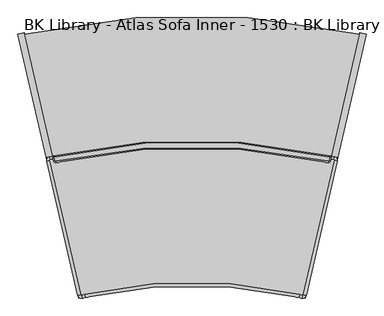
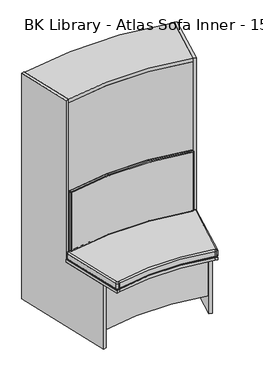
"""IFC4 building model written with IfcOpenShell, lengths in millimetres: furniture geometry, BK Library - Atlas Sofa Inner - 1530 : BK Library - Atlas Sofa Inner - 1530."""

from ifc_helpers import new_model, si_unit, point, frame, frame_2d, origin, place, context, project, spatial, polyline, circle_curve, ellipse_curve, trimmed, segment, composite_curve, outline, extrude, source, transform, mapped, element, save
from ifc_brep_helpers import plane_surface, cylinder_surface, revolved_surface, advanced_brep


def bk_library_atlas_sofa_inner_1530_bk_library_atlas_sofa_inner_c74d5a1d(model_context):
    return source(origin(), model_context, "Body", "SolidModel", [
        extrude(outline(composite_curve([segment(trimmed(circle_curve(frame_2d((0.0, -1777.8812307)), 2148.52767), [point((-474.1962162, 317.663829))], [point((474.1962162, 317.663829))], False, "CARTESIAN"), True, "CONTINUOUS"), segment(polyline([(474.1962162, 317.663829), (407.6853202, 29.2289965)]), True, "CONTINUOUS"), segment(trimmed(circle_curve(frame_2d((0.0, -1798.2835703)), 1872.4341116), [point((407.6853202, 29.2289965))], [point((-407.6853202, 29.2289965))], True, "CARTESIAN"), True, "CONTINUOUS"), segment(polyline([(-407.6853202, 29.2289965), (-474.1962162, 317.663829)]), True, "CONTINUOUS")], self_intersect=False)), frame((0.0, 0.0, 1131.7), z_axis=(0.0, 0.0, 1.0), x_axis=(1.0, 0.0, 0.0)), (0.0, 0.0, 1.0), 22.0),
        extrude(outline(composite_curve([segment(trimmed(circle_curve(frame_2d((0.0, -1776.6858327)), 1864.3585062), [point((-410.605951, 41.8947656))], [point((410.605951, 41.8947656))], False, "CARTESIAN"), True, "CONTINUOUS"), segment(polyline([(410.605951, 41.8947656), (407.6853202, 29.2289965)]), True, "CONTINUOUS"), segment(trimmed(circle_curve(frame_2d((0.0, -1798.2835703)), 1872.4341116), [point((407.6853202, 29.2289965))], [point((-407.6853202, 29.2289965))], True, "CARTESIAN"), True, "CONTINUOUS"), segment(polyline([(-407.6853202, 29.2289965), (-410.605951, 41.8947656)]), True, "CONTINUOUS")], self_intersect=False)), frame((0.0, 0.0, 1153.7), z_axis=(0.0, 0.0, 1.0), x_axis=(1.0, 0.0, 0.0)), (0.0, 0.0, 1.0), 20.0),
        extrude(outline(composite_curve([segment(trimmed(circle_curve(frame_2d((0.0, -1777.8812307)), 2148.52767), [point((-474.1962162, 317.663829))], [point((474.1962162, 317.663829))], False, "CARTESIAN"), True, "CONTINUOUS"), segment(polyline([(474.1962162, 317.663829), (394.6538473, -27.2840099)]), True, "CONTINUOUS"), segment(trimmed(circle_curve(frame_2d((0.0, -1738.7617261)), 1756.3905125), [point((394.6538473, -27.2840099))], [point((-394.6538473, -27.2840099))], True, "CARTESIAN"), True, "CONTINUOUS"), segment(polyline([(-394.6538473, -27.2840099), (-474.1962162, 317.663829)]), True, "CONTINUOUS")], self_intersect=False)), frame((0.0, 0.0, 1501.7), z_axis=(0.0, 0.0, 1.0), x_axis=(1.0, 0.0, 0.0)), (0.0, 0.0, 1.0), 24.0),
        advanced_brep(
        [(-387.5289282, -41.0616278, 912.6999998), (-386.337373, -41.8193482, 912.6999998), (386.322412, -41.8102681, 912.6999998), (387.5138106, -41.053138, 912.6999998), (389.7114211, -31.2769641, 912.6999998), (388.9577264, -30.0825885, 912.6999998), (-388.967965, -30.0849192, 912.6999998), (-389.7217875, -31.2786982, 912.6999998), (-386.337373, -41.8193482, 512.6999998), (-387.5289282, -41.0616278, 512.6999998), (-389.7217875, -31.2786982, 512.6999998), (-388.967965, -30.0849192, 512.6999998), (388.9577264, -30.0825885, 512.6999998), (389.7114211, -31.2769641, 512.6999998), (387.5138106, -41.053138, 512.6999998), (386.322412, -41.8102681, 512.6999998), (-391.4320751, -41.9365244, 908.6999998), (-393.6249345, -32.1535948, 908.6999998), (-393.6249345, -32.1535948, 516.6999998), (-391.4320751, -41.9365244, 516.6999998), (-385.4742994, -45.7251264, 908.6999998), (-385.4742994, -45.7251264, 516.6999998), (385.4594302, -45.7160667, 908.6999998), (385.4594302, -45.7160667, 516.6999998), (391.416423, -41.9304159, 908.6999998), (391.416423, -41.9304159, 516.6999998), (393.6140335, -32.1542421, 908.6999998), (393.6140335, -32.1542421, 516.6999998), (-389.8558218, -26.1846999, 908.6999998), (389.8455598, -26.1823639, 908.6999998), (389.8455598, -26.1823639, 516.6999998), (-389.8558218, -26.1846999, 516.6999998)],
        [
            (0, 1, circle_curve(frame((-386.5531414, -40.8429036, 912.6999998), z_axis=(0.0, 0.0, 1.0), x_axis=(-0.9757867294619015, -0.21872416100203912, 0.0)), 1.0)),
            (1, 2, circle_curve(frame((0.0130662, -1790.2207372, 912.6999998), z_axis=(0.0, 0.0, -1.0), x_axis=(-0.21576840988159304, 0.9764445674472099, 0.0)), 1790.579258)),
            (2, 3, circle_curve(frame((386.5381575, -40.8338185, 912.6999998), z_axis=(0.0, 0.0, 1.0), x_axis=(-0.21574546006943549, -0.9764496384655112, 0.0)), 1.0)),
            (3, 4),
            (4, 5, circle_curve(frame((388.735768, -31.0576446, 912.6999998), z_axis=(0.0, 0.0, 1.0), x_axis=(0.9756530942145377, -0.21931949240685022, 0.0)), 1.0)),
            (5, 6, circle_curve(frame((0.0, -1738.7617261, 912.6999998), z_axis=(0.0, 0.0, 1.0), x_axis=(0.2219583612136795, 0.9750561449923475, 0.0)), 1752.3905125)),
            (6, 7, circle_curve(frame((-388.7460008, -31.059974, 912.6999998), z_axis=(0.0, 0.0, 1.0), x_axis=(-0.22196420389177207, 0.9750548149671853, 0.0)), 1.0)),
            (7, 0),
            (8, 9, circle_curve(frame((-386.5531414, -40.8429036, 512.6999998), z_axis=(0.0, 0.0, -1.0), x_axis=(-0.9757867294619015, -0.21872416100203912, 0.0)), 1.0)),
            (9, 10),
            (10, 11, circle_curve(frame((-388.7460008, -31.059974, 512.6999998), z_axis=(0.0, 0.0, -1.0), x_axis=(-0.22196420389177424, 0.9750548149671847, 0.0)), 1.0)),
            (11, 12, circle_curve(frame((0.0, -1738.7617261, 512.6999998), z_axis=(0.0, 0.0, -1.0), x_axis=(0.2219583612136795, 0.9750561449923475, 0.0)), 1752.3905125)),
            (12, 13, circle_curve(frame((388.735768, -31.0576446, 512.6999998), z_axis=(0.0, 0.0, -1.0), x_axis=(0.9756530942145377, -0.21931949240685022, 0.0)), 1.0)),
            (13, 14),
            (14, 15, circle_curve(frame((386.5381575, -40.8338185, 512.6999998), z_axis=(0.0, 0.0, -1.0), x_axis=(-0.21574546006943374, -0.9764496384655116, 0.0)), 1.0)),
            (15, 8, circle_curve(frame((0.0130662, -1790.2207372, 512.6999998), z_axis=(0.0, 0.0, 1.0), x_axis=(-0.21576840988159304, 0.9764445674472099, 0.0)), 1790.579258)),
            (16, 17),
            (17, 18),
            (18, 19),
            (19, 16),
            (20, 16, circle_curve(frame((-386.5531414, -40.8429036, 908.6999998), z_axis=(0.0, 0.0, -1.0), x_axis=(1.0, 0.0, 0.0)), 5.0)),
            (19, 21, circle_curve(frame((-386.5531414, -40.8429036, 516.6999998), z_axis=(0.0, 0.0, 1.0), x_axis=(1.0, 0.0, 0.0)), 5.0)),
            (21, 20),
            (22, 20, circle_curve(frame((0.0130662, -1790.2207372, 908.6999998), z_axis=(0.0, 0.0, 1.0), x_axis=(1.0, 0.0, 0.0)), 1786.579258)),
            (21, 23, circle_curve(frame((0.0130662, -1790.2207372, 516.6999998), z_axis=(0.0, 0.0, -1.0), x_axis=(1.0, 0.0, 0.0)), 1786.579258)),
            (23, 22),
            (24, 22, circle_curve(frame((386.5381575, -40.8338185, 908.6999998), z_axis=(0.0, 0.0, -1.0), x_axis=(1.0, 0.0, 0.0)), 5.0)),
            (23, 25, circle_curve(frame((386.5381575, -40.8338185, 516.6999998), z_axis=(0.0, 0.0, 1.0), x_axis=(1.0, 0.0, 0.0)), 5.0)),
            (25, 24),
            (26, 24),
            (25, 27),
            (27, 26),
            (28, 29, circle_curve(frame((0.0, -1738.7617261, 908.6999998), z_axis=(0.0, 0.0, -1.0), x_axis=(1.0, 0.0, 0.0)), 1756.3905125)),
            (29, 30),
            (30, 31, circle_curve(frame((0.0, -1738.7617261, 516.6999998), z_axis=(0.0, 0.0, 1.0), x_axis=(1.0, 0.0, 0.0)), 1756.3905125)),
            (31, 28),
            (17, 28, circle_curve(frame((-388.7460008, -31.059974, 908.6999998), z_axis=(0.0, 0.0, -1.0), x_axis=(1.0, 0.0, 0.0)), 5.0)),
            (31, 18, circle_curve(frame((-388.7460008, -31.059974, 516.6999998), z_axis=(0.0, 0.0, 1.0), x_axis=(1.0, 0.0, 0.0)), 5.0)),
            (29, 26, circle_curve(frame((388.735768, -31.0576446, 908.6999998), z_axis=(0.0, 0.0, -1.0), x_axis=(1.0, 0.0, 0.0)), 5.0)),
            (27, 30, circle_curve(frame((388.735768, -31.0576446, 516.6999998), z_axis=(0.0, 0.0, 1.0), x_axis=(1.0, 0.0, 0.0)), 5.0)),
            (20, 1, circle_curve(frame((-386.337373, -41.8193482, 908.6999998), z_axis=(-0.9764445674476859, -0.21576840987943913, 0.0), x_axis=(-0.21576840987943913, 0.9764445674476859, 0.0)), 4.0)),
            (0, 16, circle_curve(frame((-387.5289282, -41.0616278, 908.6999998), z_axis=(0.21872416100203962, -0.9757867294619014, 0.0), x_axis=(0.9757867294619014, 0.21872416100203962, 0.0)), 4.0)),
            (22, 2, circle_curve(frame((386.322412, -41.8102681, 908.6999998), z_axis=(-0.9764496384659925, 0.21574546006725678, 0.0), x_axis=(0.21574546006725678, 0.9764496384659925, 0.0)), 4.0)),
            (24, 3, circle_curve(frame((387.5138106, -41.053138, 908.6999998), z_axis=(-0.21931949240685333, -0.975653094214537, 0.0), x_axis=(-0.975653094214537, 0.21931949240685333, 0.0)), 4.0)),
            (26, 4, circle_curve(frame((389.7114211, -31.2769641, 908.6999998), z_axis=(-0.2193194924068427, -0.9756530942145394, 0.0), x_axis=(-0.9756530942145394, 0.2193194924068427, 0.0)), 4.0)),
            (29, 5, circle_curve(frame((388.9577264, -30.0825885, 908.6999998), z_axis=(0.9750561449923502, -0.2219583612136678, 0.0), x_axis=(-0.2219583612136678, -0.9750561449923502, 0.0)), 4.0)),
            (28, 6, circle_curve(frame((-388.967965, -30.0849192, 908.6999998), z_axis=(0.9750548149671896, 0.22196420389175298, 0.0), x_axis=(0.22196420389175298, -0.9750548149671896, 0.0)), 4.0)),
            (17, 7, circle_curve(frame((-389.7217875, -31.2786982, 908.6999998), z_axis=(-0.2187241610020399, 0.9757867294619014, 0.0), x_axis=(0.9757867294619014, 0.2187241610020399, 0.0)), 4.0)),
            (8, 21, circle_curve(frame((-386.337373, -41.8193482, 516.6999998), z_axis=(-0.9764445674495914, -0.21576840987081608, 0.0), x_axis=(-0.21576840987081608, 0.9764445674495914, 0.0)), 4.0)),
            (19, 9, circle_curve(frame((-387.5289282, -41.0616278, 516.6999998), z_axis=(0.21872416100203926, -0.9757867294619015, 0.0), x_axis=(0.9757867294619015, 0.21872416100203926, 0.0)), 4.0)),
            (15, 23, circle_curve(frame((386.322412, -41.8102681, 516.6999998), z_axis=(-0.9764496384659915, 0.2157454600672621, 0.0), x_axis=(0.2157454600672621, 0.9764496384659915, 0.0)), 4.0)),
            (14, 25, circle_curve(frame((387.5138106, -41.053138, 516.6999998), z_axis=(-0.21931949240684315, -0.9756530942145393, 0.0), x_axis=(-0.9756530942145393, 0.21931949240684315, 0.0)), 4.0)),
            (13, 27, circle_curve(frame((389.7114211, -31.2769641, 516.6999998), z_axis=(-0.21931949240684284, -0.9756530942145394, 0.0), x_axis=(-0.9756530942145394, 0.21931949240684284, 0.0)), 4.0)),
            (12, 30, circle_curve(frame((388.9577264, -30.0825885, 516.6999998), z_axis=(0.9750561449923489, -0.22195836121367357, 0.0), x_axis=(-0.22195836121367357, -0.9750561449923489, 0.0)), 4.0)),
            (11, 31, circle_curve(frame((-388.967965, -30.0849192, 516.6999998), z_axis=(0.9750548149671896, 0.22196420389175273, 0.0), x_axis=(0.22196420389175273, -0.9750548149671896, 0.0)), 4.0)),
            (10, 18, circle_curve(frame((-389.7217875, -31.2786982, 516.6999998), z_axis=(-0.21872416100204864, 0.9757867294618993, 0.0), x_axis=(0.9757867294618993, 0.21872416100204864, 0.0)), 4.0)),
        ],
        [
            plane_surface(frame((-383.7460008, -31.059974, 912.6999998), z_axis=(0.0, 0.0, 1.0), x_axis=(0.0, 1.0, 0.0))),
            plane_surface(frame((-383.7460008, -31.059974, 512.6999998), z_axis=(0.0, 0.0, -1.0), x_axis=(0.0, -1.0, 0.0))),
            plane_surface(frame((-393.6249345, -32.1535948, 912.6999998), z_axis=(-0.9757867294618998, -0.21872416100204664, 0.0), x_axis=(0.0, 0.0, -1.0))),
            cylinder_surface(frame((-386.5531414, -40.8429036, 512.6999998), z_axis=(0.0, 0.0, 1.0), x_axis=(1.0, 0.0, 0.0)), 5.0),
            revolved_surface(polyline([(1786.5923242, -1790.2207372, 516.6999998), (1786.5923242, -1790.2207372, 908.6999998)]), (0.0130662, -1790.2207372, 512.6999998), (0.0, 0.0, -1.0)),
            cylinder_surface(frame((386.5381575, -40.8338185, 512.6999998), z_axis=(0.0, 0.0, 1.0), x_axis=(1.0, 0.0, 0.0)), 5.0),
            plane_surface(frame((391.416423, -41.9304159, 912.6999998), z_axis=(0.9756530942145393, -0.2193194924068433, 0.0), x_axis=(0.0, 0.0, -1.0))),
            cylinder_surface(frame((0.0, -1738.7617261, 512.6999998), z_axis=(0.0, 0.0, 1.0), x_axis=(1.0, 0.0, 0.0)), 1756.3905125),
            cylinder_surface(frame((-388.7460008, -31.059974, 512.6999998), z_axis=(0.0, 0.0, 1.0), x_axis=(1.0, 0.0, 0.0)), 5.0),
            cylinder_surface(frame((388.735768, -31.0576446, 512.6999998), z_axis=(0.0, 0.0, 1.0), x_axis=(1.0, 0.0, 0.0)), 5.0),
            revolved_surface(trimmed(ellipse_curve(frame((-387.5289282, -41.0616278, 908.6999998), z_axis=(-0.21872416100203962, 0.9757867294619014, 0.0), x_axis=(0.9757867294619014, 0.21872416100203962, 0.0)), 4.0, 4.0), [point((-391.4320751, -41.9365244, 908.6999998))], [point((-387.5289282, -41.0616278, 912.6999998))], True, "CARTESIAN"), (-386.5531414, -40.8429036, 0.0), (0.0, 0.0, 1.0)),
            revolved_surface(trimmed(ellipse_curve(frame((-386.337373, -41.8193482, 908.6999998), z_axis=(-0.9764445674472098, -0.21576840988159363, 0.0), x_axis=(-0.21576840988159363, 0.9764445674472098, 0.0)), 4.0, 4.0), [point((-385.4742994, -45.7251264, 908.6999998))], [point((-386.337373, -41.8193482, 912.6999998))], True, "CARTESIAN"), (0.0130662, -1790.2207372, 0.0), (0.0, 0.0, -1.0)),
            revolved_surface(trimmed(ellipse_curve(frame((386.322412, -41.8102681, 908.6999998), z_axis=(-0.9764496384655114, 0.2157454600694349, 0.0), x_axis=(0.2157454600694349, 0.9764496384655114, 0.0)), 4.0, 4.0), [point((385.4594302, -45.7160667, 908.6999998))], [point((386.322412, -41.8102681, 912.6999998))], True, "CARTESIAN"), (386.5381575, -40.8338185, 0.0), (0.0, 0.0, 1.0)),
            cylinder_surface(frame((387.5138106, -41.053138, 908.6999998), z_axis=(0.2193194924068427, 0.9756530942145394, 0.0), x_axis=(-0.9756530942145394, 0.2193194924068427, 0.0)), 4.0),
            revolved_surface(trimmed(ellipse_curve(frame((389.7114211, -31.2769641, 908.6999998), z_axis=(-0.21931949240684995, -0.9756530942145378, 0.0), x_axis=(-0.9756530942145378, 0.21931949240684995, 0.0)), 4.0, 4.0), [point((393.6140335, -32.1542421, 908.6999998))], [point((389.7114211, -31.2769641, 912.6999998))], True, "CARTESIAN"), (388.735768, -31.0576446, 0.0), (0.0, 0.0, 1.0)),
            revolved_surface(trimmed(ellipse_curve(frame((388.9577264, -30.0825885, 908.6999998), z_axis=(0.9750561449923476, -0.2219583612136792, 0.0), x_axis=(-0.2219583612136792, -0.9750561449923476, 0.0)), 4.0, 4.0), [point((389.8455598, -26.1823639, 908.6999998))], [point((388.9577264, -30.0825885, 912.6999998))], True, "CARTESIAN"), (0.0, -1738.7617261, 0.0), (0.0, 0.0, 1.0)),
            revolved_surface(trimmed(ellipse_curve(frame((-388.967965, -30.0849192, 908.6999998), z_axis=(0.9750548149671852, 0.22196420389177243, 0.0), x_axis=(0.22196420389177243, -0.9750548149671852, 0.0)), 4.0, 4.0), [point((-389.8558218, -26.1846999, 908.6999998))], [point((-388.967965, -30.0849192, 912.6999998))], True, "CARTESIAN"), (-388.7460008, -31.059974, 0.0), (0.0, 0.0, 1.0)),
            cylinder_surface(frame((-389.7217875, -31.2786982, 908.6999998), z_axis=(0.218724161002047, -0.9757867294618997, 0.0), x_axis=(0.9757867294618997, 0.218724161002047, 0.0)), 4.0),
            revolved_surface(trimmed(ellipse_curve(frame((-387.5289282, -41.0616278, 516.6999998), z_axis=(-0.21872416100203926, 0.9757867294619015, 0.0), x_axis=(0.9757867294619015, 0.21872416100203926, 0.0)), 4.0, 4.0), [point((-387.5289282, -41.0616278, 512.6999998))], [point((-391.4320751, -41.9365244, 516.6999998))], True, "CARTESIAN"), (-386.5531414, -40.8429036, 1425.3999996), (0.0, 0.0, 1.0)),
            revolved_surface(trimmed(ellipse_curve(frame((-386.337373, -41.8193482, 516.6999998), z_axis=(-0.9764445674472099, -0.2157684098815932, 0.0), x_axis=(-0.2157684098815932, 0.9764445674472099, 0.0)), 4.0, 4.0), [point((-386.337373, -41.8193482, 512.6999998))], [point((-385.4742994, -45.7251264, 516.6999998))], True, "CARTESIAN"), (0.0130662, -1790.2207372, 1425.3999996), (0.0, 0.0, -1.0)),
            revolved_surface(trimmed(ellipse_curve(frame((386.322412, -41.8102681, 516.6999998), z_axis=(-0.9764496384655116, 0.2157454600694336, 0.0), x_axis=(0.2157454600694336, 0.9764496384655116, 0.0)), 4.0, 4.0), [point((386.322412, -41.8102681, 512.6999998))], [point((385.4594302, -45.7160667, 516.6999998))], True, "CARTESIAN"), (386.5381575, -40.8338185, 1425.3999996), (0.0, 0.0, 1.0)),
            cylinder_surface(frame((387.5138106, -41.053138, 516.6999998), z_axis=(0.21931949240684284, 0.9756530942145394, 0.0), x_axis=(-0.9756530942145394, 0.21931949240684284, 0.0)), 4.0),
            revolved_surface(trimmed(ellipse_curve(frame((389.7114211, -31.2769641, 516.6999998), z_axis=(-0.2193194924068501, -0.9756530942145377, 0.0), x_axis=(-0.9756530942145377, 0.2193194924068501, 0.0)), 4.0, 4.0), [point((389.7114211, -31.2769641, 512.6999998))], [point((393.6140335, -32.1542421, 516.6999998))], True, "CARTESIAN"), (388.735768, -31.0576446, 1425.3999996), (0.0, 0.0, 1.0)),
            revolved_surface(trimmed(ellipse_curve(frame((388.9577264, -30.0825885, 516.6999998), z_axis=(0.9750561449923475, -0.22195836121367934, 0.0), x_axis=(-0.22195836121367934, -0.9750561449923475, 0.0)), 4.0, 4.0), [point((388.9577264, -30.0825885, 512.6999998))], [point((389.8455598, -26.1823639, 516.6999998))], True, "CARTESIAN"), (0.0, -1738.7617261, 1425.3999996), (0.0, 0.0, 1.0)),
            revolved_surface(trimmed(ellipse_curve(frame((-388.967965, -30.0849192, 516.6999998), z_axis=(0.9750548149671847, 0.22196420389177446, 0.0), x_axis=(0.22196420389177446, -0.9750548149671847, 0.0)), 4.0, 4.0), [point((-388.967965, -30.0849192, 512.6999998))], [point((-389.8558218, -26.1846999, 516.6999998))], True, "CARTESIAN"), (-388.7460008, -31.059974, 1425.3999996), (0.0, 0.0, 1.0)),
            cylinder_surface(frame((-389.7217875, -31.2786982, 516.6999998), z_axis=(0.2187241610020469, -0.9757867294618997, 0.0), x_axis=(0.9757867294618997, 0.2187241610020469, 0.0)), 4.0),
        ],
        [
            (0, [[1, 2, 3, 4, 5, 6, 7, 8]]),
            (1, [[9, 10, 11, 12, 13, 14, 15, 16]]),
            (2, [[17, 18, 19, 20]]),
            (3, [[21, -20, 22, 23]]),
            (4, [[24, -23, 25, 26]]),
            (5, [[27, -26, 28, 29]]),
            (6, [[30, -29, 31, 32]]),
            (7, [[33, 34, 35, 36]]),
            (8, [[37, -36, 38, -18]]),
            (9, [[39, -32, 40, -34]]),
            (10, [[41, -1, 42, -21]]),
            (11, [[-41, -24, 43, -2]]),
            (12, [[-43, -27, 44, -3]]),
            (13, [[-44, -30, 45, -4]]),
            (14, [[-45, -39, 46, -5]]),
            (15, [[-46, -33, 47, -6]]),
            (16, [[-47, -37, 48, -7]]),
            (17, [[-42, -8, -48, -17]]),
            (18, [[49, -22, 50, -9]]),
            (19, [[-49, -16, 51, -25]]),
            (20, [[-51, -15, 52, -28]]),
            (21, [[-52, -14, 53, -31]]),
            (22, [[-53, -13, 54, -40]]),
            (23, [[-54, -12, 55, -35]]),
            (24, [[-55, -11, 56, -38]]),
            (25, [[-50, -19, -56, -10]]),
        ],
    ),
        advanced_brep(
        [(-314.0881267, -421.1743563, 512.6999998), (-312.8890018, -421.9240893, 512.6999998), (-304.1191415, -419.9018257, 512.6999998), (304.1191415, -419.9018257, 512.6999998), (312.8890018, -421.9240893, 512.6999998), (314.0881267, -421.1743563, 512.6999998), (402.151177, -39.2752587, 512.6999998), (401.401444, -38.0761338, 512.6999998), (392.6315837, -36.0538702, 512.6999998), (-392.6315837, -36.0538702, 512.6999998), (-401.401444, -38.0761338, 512.6999998), (-402.151177, -39.2752587, 512.6999998), (-312.8890018, -421.9240893, 462.6999998), (-314.0881267, -421.1743563, 462.6999998), (-402.151177, -39.2752587, 462.6999998), (-401.401444, -38.0761338, 462.6999998), (-392.6315837, -36.0538702, 462.6999998), (392.6315837, -36.0538702, 462.6999998), (401.401444, -38.0761338, 462.6999998), (402.151177, -39.2752587, 462.6999998), (314.0881267, -421.1743563, 462.6999998), (312.8890018, -421.9240893, 462.6999998), (304.1191415, -419.9018257, 462.6999998), (-304.1191415, -419.9018257, 462.6999998), (-310.8667382, -430.6939496, 503.6999998), (-322.857987, -423.1966199, 503.6999998), (-322.857987, -423.1966199, 471.6999998), (-310.8667382, -430.6939496, 471.6999998), (-302.0968779, -428.671686, 503.6999998), (-302.0968779, -428.671686, 471.6999998), (302.0968779, -428.671686, 503.6999998), (302.0968779, -428.671686, 471.6999998), (310.8667382, -430.6939496, 503.6999998), (310.8667382, -430.6939496, 471.6999998), (322.857987, -423.1966199, 503.6999998), (322.857987, -423.1966199, 471.6999998), (410.9210373, -41.2975223, 503.6999998), (410.9210373, -41.2975223, 471.6999998), (403.4237077, -29.3062735, 503.6999998), (403.4237077, -29.3062735, 471.6999998), (394.6538473, -27.2840099, 503.6999998), (394.6538473, -27.2840099, 471.6999998), (-394.6538473, -27.2840099, 503.6999998), (-394.6538473, -27.2840099, 471.6999998), (-403.4237077, -29.3062735, 503.6999998), (-403.4237077, -29.3062735, 471.6999998), (-410.9210373, -41.2975223, 503.6999998), (-410.9210373, -41.2975223, 471.6999998)],
        [
            (0, 1, circle_curve(frame((-313.1136978, -420.9496603, 512.6999998), z_axis=(0.0, 0.0, 1.0), x_axis=(-0.9744289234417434, -0.22469595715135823, 0.0)), 1.0)),
            (1, 2),
            (2, 3, circle_curve(frame((0.0, -1738.7617261, 512.6999998), z_axis=(0.0, 0.0, -1.0), x_axis=(-0.22469595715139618, 0.9744289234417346, 0.0)), 1353.4695746)),
            (3, 4),
            (4, 5, circle_curve(frame((313.1136978, -420.9496603, 512.6999998), z_axis=(0.0, 0.0, 1.0), x_axis=(-0.22469595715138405, -0.9744289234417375, 0.0)), 1.0)),
            (5, 6),
            (6, 7, circle_curve(frame((401.1767481, -39.0505627, 512.6999998), z_axis=(0.0, 0.0, 1.0), x_axis=(0.9744289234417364, -0.22469595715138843, 0.0)), 1.0)),
            (7, 8),
            (8, 9, circle_curve(frame((0.0, -1738.7617261, 512.6999998), z_axis=(0.0, 0.0, 1.0), x_axis=(0.22469595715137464, 0.9744289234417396, 0.0)), 1747.3905125)),
            (9, 10),
            (10, 11, circle_curve(frame((-401.1767481, -39.0505627, 512.6999998), z_axis=(0.0, 0.0, 1.0), x_axis=(-0.22469595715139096, 0.9744289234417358, 0.0)), 1.0)),
            (11, 0),
            (12, 13, circle_curve(frame((-313.1136978, -420.9496603, 462.6999998), z_axis=(0.0, 0.0, -1.0), x_axis=(-0.9744289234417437, -0.22469595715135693, 0.0)), 1.0)),
            (13, 14),
            (14, 15, circle_curve(frame((-401.1767481, -39.0505627, 462.6999998), z_axis=(0.0, 0.0, -1.0), x_axis=(-0.22469595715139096, 0.9744289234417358, 0.0)), 1.0)),
            (15, 16),
            (16, 17, circle_curve(frame((0.0, -1738.7617261, 462.6999998), z_axis=(0.0, 0.0, -1.0), x_axis=(0.22469595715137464, 0.9744289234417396, 0.0)), 1747.3905125)),
            (17, 18),
            (18, 19, circle_curve(frame((401.1767481, -39.0505627, 462.6999998), z_axis=(0.0, 0.0, -1.0), x_axis=(0.9744289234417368, -0.2246959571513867, 0.0)), 1.0)),
            (19, 20),
            (20, 21, circle_curve(frame((313.1136978, -420.9496603, 462.6999998), z_axis=(0.0, 0.0, -1.0), x_axis=(-0.22469595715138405, -0.9744289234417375, 0.0)), 1.0)),
            (21, 22),
            (22, 23, circle_curve(frame((0.0, -1738.7617261, 462.6999998), z_axis=(0.0, 0.0, 1.0), x_axis=(-0.22469595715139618, 0.9744289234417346, 0.0)), 1353.4695746)),
            (23, 12),
            (24, 25, circle_curve(frame((-313.1136978, -420.9496603, 503.6999998), z_axis=(0.0, 0.0, -1.0), x_axis=(1.0, 0.0, 0.0)), 10.0)),
            (25, 26),
            (26, 27, circle_curve(frame((-313.1136978, -420.9496603, 471.6999998), z_axis=(0.0, 0.0, 1.0), x_axis=(1.0, 0.0, 0.0)), 10.0)),
            (27, 24),
            (28, 24),
            (27, 29),
            (29, 28),
            (30, 28, circle_curve(frame((0.0, -1738.7617261, 503.6999998), z_axis=(0.0, 0.0, 1.0), x_axis=(1.0, 0.0, 0.0)), 1344.4695746)),
            (29, 31, circle_curve(frame((0.0, -1738.7617261, 471.6999998), z_axis=(0.0, 0.0, -1.0), x_axis=(1.0, 0.0, 0.0)), 1344.4695746)),
            (31, 30),
            (32, 30),
            (31, 33),
            (33, 32),
            (34, 32, circle_curve(frame((313.1136978, -420.9496603, 503.6999998), z_axis=(0.0, 0.0, -1.0), x_axis=(1.0, 0.0, 0.0)), 10.0)),
            (33, 35, circle_curve(frame((313.1136978, -420.9496603, 471.6999998), z_axis=(0.0, 0.0, 1.0), x_axis=(1.0, 0.0, 0.0)), 10.0)),
            (35, 34),
            (36, 34),
            (35, 37),
            (37, 36),
            (38, 36, circle_curve(frame((401.1767481, -39.0505627, 503.6999998), z_axis=(0.0, 0.0, -1.0), x_axis=(1.0, 0.0, 0.0)), 10.0)),
            (37, 39, circle_curve(frame((401.1767481, -39.0505627, 471.6999998), z_axis=(0.0, 0.0, 1.0), x_axis=(1.0, 0.0, 0.0)), 10.0)),
            (39, 38),
            (40, 38),
            (39, 41),
            (41, 40),
            (42, 40, circle_curve(frame((0.0, -1738.7617261, 503.6999998), z_axis=(0.0, 0.0, -1.0), x_axis=(1.0, 0.0, 0.0)), 1756.3905125)),
            (41, 43, circle_curve(frame((0.0, -1738.7617261, 471.6999998), z_axis=(0.0, 0.0, 1.0), x_axis=(1.0, 0.0, 0.0)), 1756.3905125)),
            (43, 42),
            (44, 42),
            (43, 45),
            (45, 44),
            (46, 44, circle_curve(frame((-401.1767481, -39.0505627, 503.6999998), z_axis=(0.0, 0.0, -1.0), x_axis=(1.0, 0.0, 0.0)), 10.0)),
            (45, 47, circle_curve(frame((-401.1767481, -39.0505627, 471.6999998), z_axis=(0.0, 0.0, 1.0), x_axis=(1.0, 0.0, 0.0)), 10.0)),
            (47, 46),
            (25, 46),
            (47, 26),
            (24, 1, circle_curve(frame((-312.8890018, -421.9240893, 503.6999998), z_axis=(-0.9744289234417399, -0.22469595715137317, 0.0), x_axis=(-0.22469595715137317, 0.9744289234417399, 0.0)), 9.0)),
            (0, 25, circle_curve(frame((-314.0881267, -421.1743563, 503.6999998), z_axis=(0.2246959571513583, -0.9744289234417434, 0.0), x_axis=(0.9744289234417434, 0.2246959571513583, 0.0)), 9.0)),
            (28, 2, circle_curve(frame((-304.1191415, -419.9018257, 503.6999998), z_axis=(-0.9744289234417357, -0.22469595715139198, 0.0), x_axis=(-0.22469595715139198, 0.9744289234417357, 0.0)), 9.0)),
            (30, 3, circle_curve(frame((304.1191415, -419.9018257, 503.6999998), z_axis=(-0.9744289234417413, 0.2246959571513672, 0.0), x_axis=(0.2246959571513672, 0.9744289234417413, 0.0)), 9.0)),
            (32, 4, circle_curve(frame((312.8890018, -421.9240893, 503.6999998), z_axis=(-0.9744289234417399, 0.2246959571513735, 0.0), x_axis=(0.2246959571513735, 0.9744289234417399, 0.0)), 9.0)),
            (34, 5, circle_curve(frame((314.0881267, -421.1743563, 503.6999998), z_axis=(-0.22469595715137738, -0.974428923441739, 0.0), x_axis=(-0.974428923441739, 0.22469595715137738, 0.0)), 9.0)),
            (36, 6, circle_curve(frame((402.151177, -39.2752587, 503.6999998), z_axis=(-0.22469595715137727, -0.974428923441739, 0.0), x_axis=(-0.974428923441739, 0.22469595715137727, 0.0)), 9.0)),
            (38, 7, circle_curve(frame((401.401444, -38.0761338, 503.6999998), z_axis=(0.9744289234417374, -0.22469595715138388, 0.0), x_axis=(-0.22469595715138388, -0.9744289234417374, 0.0)), 9.0)),
            (40, 8, circle_curve(frame((392.6315837, -36.0538702, 503.6999998), z_axis=(0.9744289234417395, -0.22469595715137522, 0.0), x_axis=(-0.22469595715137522, -0.9744289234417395, 0.0)), 9.0)),
            (42, 9, circle_curve(frame((-392.6315837, -36.0538702, 503.6999998), z_axis=(0.974428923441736, 0.22469595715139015, 0.0), x_axis=(0.22469595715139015, -0.974428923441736, 0.0)), 9.0)),
            (44, 10, circle_curve(frame((-401.401444, -38.0761338, 503.6999998), z_axis=(0.974428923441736, 0.2246959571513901, 0.0), x_axis=(0.2246959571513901, -0.974428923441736, 0.0)), 9.0)),
            (46, 11, circle_curve(frame((-402.151177, -39.2752587, 503.6999998), z_axis=(-0.2246959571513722, 0.9744289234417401, 0.0), x_axis=(0.9744289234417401, 0.2246959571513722, 0.0)), 9.0)),
            (12, 27, circle_curve(frame((-312.8890018, -421.9240893, 471.6999998), z_axis=(-0.9744289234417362, -0.22469595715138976, 0.0), x_axis=(-0.22469595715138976, 0.9744289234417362, 0.0)), 9.0)),
            (26, 13, circle_curve(frame((-314.0881267, -421.1743563, 471.6999998), z_axis=(0.2246959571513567, -0.9744289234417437, 0.0), x_axis=(0.9744289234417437, 0.2246959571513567, 0.0)), 9.0)),
            (23, 29, circle_curve(frame((-304.1191415, -419.9018257, 471.6999998), z_axis=(-0.9744289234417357, -0.22469595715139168, 0.0), x_axis=(-0.22469595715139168, 0.9744289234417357, 0.0)), 9.0)),
            (22, 31, circle_curve(frame((304.1191415, -419.9018257, 471.6999998), z_axis=(-0.9744289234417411, 0.22469595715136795, 0.0), x_axis=(0.22469595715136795, 0.9744289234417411, 0.0)), 9.0)),
            (21, 33, circle_curve(frame((312.8890018, -421.9240893, 471.6999998), z_axis=(-0.9744289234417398, 0.22469595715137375, 0.0), x_axis=(0.22469595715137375, 0.9744289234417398, 0.0)), 9.0)),
            (20, 35, circle_curve(frame((314.0881267, -421.1743563, 471.6999998), z_axis=(-0.22469595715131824, -0.9744289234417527, 0.0), x_axis=(-0.9744289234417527, 0.22469595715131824, 0.0)), 9.0)),
            (19, 37, circle_curve(frame((402.151177, -39.2752587, 471.6999998), z_axis=(-0.22469595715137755, -0.9744289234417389, 0.0), x_axis=(-0.9744289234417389, 0.22469595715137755, 0.0)), 9.0)),
            (18, 39, circle_curve(frame((401.401444, -38.0761338, 471.6999998), z_axis=(0.9744289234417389, -0.2246959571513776, 0.0), x_axis=(-0.2246959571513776, -0.9744289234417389, 0.0)), 9.0)),
            (17, 41, circle_curve(frame((392.6315837, -36.0538702, 471.6999998), z_axis=(0.9744289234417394, -0.2246959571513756, 0.0), x_axis=(-0.2246959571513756, -0.9744289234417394, 0.0)), 9.0)),
            (16, 43, circle_curve(frame((-392.6315837, -36.0538702, 471.6999998), z_axis=(0.974428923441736, 0.22469595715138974, 0.0), x_axis=(0.22469595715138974, -0.974428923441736, 0.0)), 9.0)),
            (15, 45, circle_curve(frame((-401.401444, -38.0761338, 471.6999998), z_axis=(0.9744289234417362, 0.2246959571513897, 0.0), x_axis=(0.2246959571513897, -0.9744289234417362, 0.0)), 9.0)),
            (14, 47, circle_curve(frame((-402.151177, -39.2752587, 471.6999998), z_axis=(-0.22469595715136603, 0.9744289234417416, 0.0), x_axis=(0.9744289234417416, 0.22469595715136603, 0.0)), 9.0)),
        ],
        [
            plane_surface(frame((-303.1136978, -420.9496603, 512.6999998), z_axis=(0.0, 0.0, 1.0), x_axis=(0.0, 1.0, 0.0))),
            plane_surface(frame((-303.1136978, -420.9496603, 462.6999998), z_axis=(0.0, 0.0, -1.0), x_axis=(0.0, -1.0, 0.0))),
            cylinder_surface(frame((-313.1136978, -420.9496603, 462.6999998), z_axis=(0.0, 0.0, 1.0), x_axis=(1.0, 0.0, 0.0)), 10.0),
            plane_surface(frame((-310.8667382, -430.6939496, 512.6999998), z_axis=(0.2246959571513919, -0.9744289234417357, 0.0), x_axis=(0.0, 0.0, -1.0))),
            revolved_surface(polyline([(1344.4695746, -1738.7617261, 471.6999998), (1344.4695746, -1738.7617261, 503.6999998)]), (0.0, -1738.7617261, 462.6999998), (0.0, 0.0, -1.0)),
            plane_surface(frame((302.0968779, -428.671686, 512.6999998), z_axis=(-0.22469595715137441, -0.9744289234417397, 0.0), x_axis=(0.0, 0.0, -1.0))),
            cylinder_surface(frame((313.1136978, -420.9496603, 462.6999998), z_axis=(0.0, 0.0, 1.0), x_axis=(1.0, 0.0, 0.0)), 10.0),
            plane_surface(frame((322.857987, -423.1966199, 512.6999998), z_axis=(0.9744289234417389, -0.22469595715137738, 0.0), x_axis=(0.0, 0.0, -1.0))),
            cylinder_surface(frame((401.1767481, -39.0505627, 462.6999998), z_axis=(0.0, 0.0, 1.0), x_axis=(1.0, 0.0, 0.0)), 10.0),
            plane_surface(frame((403.4237077, -29.3062735, 512.6999998), z_axis=(0.22469595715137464, 0.9744289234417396, 0.0), x_axis=(0.0, 0.0, -1.0))),
            cylinder_surface(frame((0.0, -1738.7617261, 462.6999998), z_axis=(0.0, 0.0, 1.0), x_axis=(1.0, 0.0, 0.0)), 1756.3905125),
            plane_surface(frame((-394.6538473, -27.2840099, 512.6999998), z_axis=(-0.22469595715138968, 0.9744289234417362, 0.0), x_axis=(0.0, 0.0, -1.0))),
            cylinder_surface(frame((-401.1767481, -39.0505627, 462.6999998), z_axis=(0.0, 0.0, 1.0), x_axis=(1.0, 0.0, 0.0)), 10.0),
            plane_surface(frame((-410.9210373, -41.2975223, 512.6999998), z_axis=(-0.974428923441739, -0.22469595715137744, 0.0), x_axis=(0.0, 0.0, -1.0))),
            revolved_surface(trimmed(ellipse_curve(frame((-314.0881267, -421.1743563, 503.6999998), z_axis=(-0.2246959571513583, 0.9744289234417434, 0.0), x_axis=(0.9744289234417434, 0.2246959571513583, 0.0)), 9.0, 9.0), [point((-322.857987, -423.1966199, 503.6999998))], [point((-314.0881267, -421.1743563, 512.6999998))], True, "CARTESIAN"), (-313.1136978, -420.9496603, 0.0), (0.0, 0.0, 1.0)),
            cylinder_surface(frame((-312.8890018, -421.9240893, 503.6999998), z_axis=(0.9744289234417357, 0.22469595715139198, 0.0), x_axis=(-0.22469595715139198, 0.9744289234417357, 0.0)), 9.0),
            revolved_surface(trimmed(ellipse_curve(frame((-304.1191415, -419.9018257, 503.6999998), z_axis=(-0.9744289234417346, -0.22469595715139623, 0.0), x_axis=(-0.22469595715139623, 0.9744289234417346, 0.0)), 9.0, 9.0), [point((-302.0968779, -428.671686, 503.6999998))], [point((-304.1191415, -419.9018257, 512.6999998))], True, "CARTESIAN"), (0.0, -1738.7617261, 0.0), (0.0, 0.0, -1.0)),
            cylinder_surface(frame((304.1191415, -419.9018257, 503.6999998), z_axis=(0.9744289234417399, -0.2246959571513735, 0.0), x_axis=(0.2246959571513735, 0.9744289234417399, 0.0)), 9.0),
            revolved_surface(trimmed(ellipse_curve(frame((312.8890018, -421.9240893, 503.6999998), z_axis=(-0.9744289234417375, 0.22469595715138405, 0.0), x_axis=(0.22469595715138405, 0.9744289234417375, 0.0)), 9.0, 9.0), [point((310.8667382, -430.6939496, 503.6999998))], [point((312.8890018, -421.9240893, 512.6999998))], True, "CARTESIAN"), (313.1136978, -420.9496603, 0.0), (0.0, 0.0, 1.0)),
            cylinder_surface(frame((314.0881267, -421.1743563, 503.6999998), z_axis=(0.22469595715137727, 0.974428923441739, 0.0), x_axis=(-0.974428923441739, 0.22469595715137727, 0.0)), 9.0),
            revolved_surface(trimmed(ellipse_curve(frame((402.151177, -39.2752587, 503.6999998), z_axis=(-0.22469595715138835, -0.9744289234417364, 0.0), x_axis=(-0.9744289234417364, 0.22469595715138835, 0.0)), 9.0, 9.0), [point((410.9210373, -41.2975223, 503.6999998))], [point((402.151177, -39.2752587, 512.6999998))], True, "CARTESIAN"), (401.1767481, -39.0505627, 0.0), (0.0, 0.0, 1.0)),
            cylinder_surface(frame((401.401444, -38.0761338, 503.6999998), z_axis=(-0.9744289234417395, 0.22469595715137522, 0.0), x_axis=(-0.22469595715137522, -0.9744289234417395, 0.0)), 9.0),
            revolved_surface(trimmed(ellipse_curve(frame((392.6315837, -36.0538702, 503.6999998), z_axis=(0.9744289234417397, -0.22469595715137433, 0.0), x_axis=(-0.22469595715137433, -0.9744289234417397, 0.0)), 9.0, 9.0), [point((394.6538473, -27.2840099, 503.6999998))], [point((392.6315837, -36.0538702, 512.6999998))], True, "CARTESIAN"), (0.0, -1738.7617261, 0.0), (0.0, 0.0, 1.0)),
            cylinder_surface(frame((-392.6315837, -36.0538702, 503.6999998), z_axis=(-0.974428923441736, -0.2246959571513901, 0.0), x_axis=(0.2246959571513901, -0.974428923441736, 0.0)), 9.0),
            revolved_surface(trimmed(ellipse_curve(frame((-401.401444, -38.0761338, 503.6999998), z_axis=(0.9744289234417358, 0.22469595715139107, 0.0), x_axis=(0.22469595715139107, -0.9744289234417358, 0.0)), 9.0, 9.0), [point((-403.4237077, -29.3062735, 503.6999998))], [point((-401.401444, -38.0761338, 512.6999998))], True, "CARTESIAN"), (-401.1767481, -39.0505627, 0.0), (0.0, 0.0, 1.0)),
            cylinder_surface(frame((-402.151177, -39.2752587, 503.6999998), z_axis=(0.22469595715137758, -0.9744289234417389, 0.0), x_axis=(0.9744289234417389, 0.22469595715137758, 0.0)), 9.0),
            revolved_surface(trimmed(ellipse_curve(frame((-314.0881267, -421.1743563, 471.6999998), z_axis=(-0.2246959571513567, 0.9744289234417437, 0.0), x_axis=(0.9744289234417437, 0.2246959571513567, 0.0)), 9.0, 9.0), [point((-314.0881267, -421.1743563, 462.6999998))], [point((-322.857987, -423.1966199, 471.6999998))], True, "CARTESIAN"), (-313.1136978, -420.9496603, 975.3999996), (0.0, 0.0, 1.0)),
            cylinder_surface(frame((-312.8890018, -421.9240893, 471.6999998), z_axis=(0.9744289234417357, 0.22469595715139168, 0.0), x_axis=(-0.22469595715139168, 0.9744289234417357, 0.0)), 9.0),
            revolved_surface(trimmed(ellipse_curve(frame((-304.1191415, -419.9018257, 471.6999998), z_axis=(-0.9744289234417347, -0.22469595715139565, 0.0), x_axis=(-0.22469595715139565, 0.9744289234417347, 0.0)), 9.0, 9.0), [point((-304.1191415, -419.9018257, 462.6999998))], [point((-302.0968779, -428.671686, 471.6999998))], True, "CARTESIAN"), (0.0, -1738.7617261, 975.3999996), (0.0, 0.0, -1.0)),
            cylinder_surface(frame((304.1191415, -419.9018257, 471.6999998), z_axis=(0.9744289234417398, -0.22469595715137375, 0.0), x_axis=(0.22469595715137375, 0.9744289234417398, 0.0)), 9.0),
            revolved_surface(trimmed(ellipse_curve(frame((312.8890018, -421.9240893, 471.6999998), z_axis=(-0.9744289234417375, 0.22469595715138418, 0.0), x_axis=(0.22469595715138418, 0.9744289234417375, 0.0)), 9.0, 9.0), [point((312.8890018, -421.9240893, 462.6999998))], [point((310.8667382, -430.6939496, 471.6999998))], True, "CARTESIAN"), (313.1136978, -420.9496603, 975.3999996), (0.0, 0.0, 1.0)),
            cylinder_surface(frame((314.0881267, -421.1743563, 471.6999998), z_axis=(0.22469595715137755, 0.9744289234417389, 0.0), x_axis=(-0.9744289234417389, 0.22469595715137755, 0.0)), 9.0),
            revolved_surface(trimmed(ellipse_curve(frame((402.151177, -39.2752587, 471.6999998), z_axis=(-0.22469595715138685, -0.9744289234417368, 0.0), x_axis=(-0.9744289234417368, 0.22469595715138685, 0.0)), 9.0, 9.0), [point((402.151177, -39.2752587, 462.6999998))], [point((410.9210373, -41.2975223, 471.6999998))], True, "CARTESIAN"), (401.1767481, -39.0505627, 975.3999996), (0.0, 0.0, 1.0)),
            cylinder_surface(frame((401.401444, -38.0761338, 471.6999998), z_axis=(-0.9744289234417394, 0.2246959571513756, 0.0), x_axis=(-0.2246959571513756, -0.9744289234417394, 0.0)), 9.0),
            revolved_surface(trimmed(ellipse_curve(frame((392.6315837, -36.0538702, 471.6999998), z_axis=(0.9744289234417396, -0.2246959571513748, 0.0), x_axis=(-0.2246959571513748, -0.9744289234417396, 0.0)), 9.0, 9.0), [point((392.6315837, -36.0538702, 462.6999998))], [point((394.6538473, -27.2840099, 471.6999998))], True, "CARTESIAN"), (0.0, -1738.7617261, 975.3999996), (0.0, 0.0, 1.0)),
            cylinder_surface(frame((-392.6315837, -36.0538702, 471.6999998), z_axis=(-0.9744289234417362, -0.2246959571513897, 0.0), x_axis=(0.2246959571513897, -0.9744289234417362, 0.0)), 9.0),
            revolved_surface(trimmed(ellipse_curve(frame((-401.401444, -38.0761338, 471.6999998), z_axis=(0.9744289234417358, 0.22469595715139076, 0.0), x_axis=(0.22469595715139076, -0.9744289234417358, 0.0)), 9.0, 9.0), [point((-401.401444, -38.0761338, 462.6999998))], [point((-403.4237077, -29.3062735, 471.6999998))], True, "CARTESIAN"), (-401.1767481, -39.0505627, 975.3999996), (0.0, 0.0, 1.0)),
            cylinder_surface(frame((-402.151177, -39.2752587, 471.6999998), z_axis=(0.22469595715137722, -0.974428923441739, 0.0), x_axis=(0.974428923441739, 0.22469595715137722, 0.0)), 9.0),
        ],
        [
            (0, [[1, 2, 3, 4, 5, 6, 7, 8, 9, 10, 11, 12]]),
            (1, [[13, 14, 15, 16, 17, 18, 19, 20, 21, 22, 23, 24]]),
            (2, [[25, 26, 27, 28]]),
            (3, [[29, -28, 30, 31]]),
            (4, [[32, -31, 33, 34]]),
            (5, [[35, -34, 36, 37]]),
            (6, [[38, -37, 39, 40]]),
            (7, [[41, -40, 42, 43]]),
            (8, [[44, -43, 45, 46]]),
            (9, [[47, -46, 48, 49]]),
            (10, [[50, -49, 51, 52]]),
            (11, [[53, -52, 54, 55]]),
            (12, [[56, -55, 57, 58]]),
            (13, [[59, -58, 60, -26]]),
            (14, [[61, -1, 62, -25]]),
            (15, [[-61, -29, 63, -2]]),
            (16, [[-63, -32, 64, -3]]),
            (17, [[-64, -35, 65, -4]]),
            (18, [[-65, -38, 66, -5]]),
            (19, [[-66, -41, 67, -6]]),
            (20, [[-67, -44, 68, -7]]),
            (21, [[-68, -47, 69, -8]]),
            (22, [[-69, -50, 70, -9]]),
            (23, [[-70, -53, 71, -10]]),
            (24, [[-71, -56, 72, -11]]),
            (25, [[-62, -12, -72, -59]]),
            (26, [[73, -27, 74, -13]]),
            (27, [[-73, -24, 75, -30]]),
            (28, [[-75, -23, 76, -33]]),
            (29, [[-76, -22, 77, -36]]),
            (30, [[-77, -21, 78, -39]]),
            (31, [[-78, -20, 79, -42]]),
            (32, [[-79, -19, 80, -45]]),
            (33, [[-80, -18, 81, -48]]),
            (34, [[-81, -17, 82, -51]]),
            (35, [[-82, -16, 83, -54]]),
            (36, [[-83, -15, 84, -57]]),
            (37, [[-74, -60, -84, -14]]),
        ],
    ),
        extrude(outline(composite_curve([segment(trimmed(circle_curve(frame_2d((0.0, -1839.5394457)), 1567.6957288), [point((-330.1528374, -307.0026592))], [point((330.1528374, -307.0026592))], False, "CARTESIAN"), True, "CONTINUOUS"), segment(polyline([(330.1528374, -307.0026592), (329.7167046, -308.8940171)]), True, "CONTINUOUS"), segment(trimmed(circle_curve(frame_2d((0.0, -1845.9266525)), 1571.9994999), [point((329.7167046, -308.8940171))], [point((-329.7167046, -308.8940171))], True, "CARTESIAN"), True, "CONTINUOUS"), segment(polyline([(-329.7167046, -308.8940171), (-330.1528374, -307.0026592)]), True, "CONTINUOUS")], self_intersect=False)), frame((0.0, 0.0, 126.2197818), z_axis=(0.0, 0.0, 1.0), x_axis=(1.0, 0.0, 0.0)), (0.0, 0.0, 1.0), 317.480218),
        extrude(outline(composite_curve([segment(polyline([(-321.0766086, -430.9218441), (-413.1679969, -31.553233), (-394.6538473, -27.2840099)]), True, "CONTINUOUS"), segment(trimmed(circle_curve(frame_2d((0.0, -1738.7617261)), 1756.3905125), [point((-394.6538473, -27.2840099))], [point((394.6538473, -27.2840099))], False, "CARTESIAN"), True, "CONTINUOUS"), segment(polyline([(394.6538473, -27.2840099), (413.1679969, -31.553233), (321.0970208, -430.8333237), (302.2990252, -426.4986478)]), True, "CONTINUOUS"), segment(trimmed(circle_curve(frame_2d((0.2021473, -1736.5886879)), 1344.4695746), [point((302.2990252, -426.4986478))], [point((-301.8947306, -426.4986478))], True, "CARTESIAN"), True, "CONTINUOUS"), segment(polyline([(-301.8947306, -426.4986478), (-321.0766086, -430.9218441)]), True, "CONTINUOUS")], self_intersect=False)), frame((0.0, 0.0, 443.6999998), z_axis=(0.0, 0.0, 1.0), x_axis=(1.0, 0.0, 0.0)), (0.0, 0.0, 1.0), 19.0),
        advanced_brep(
        [(394.6538473, -27.2840099, 1501.7), (-394.6538473, -27.2840099, 1501.7), (-394.6538473, -27.2840099, 533.6999998), (-394.6538473, -27.2840099, 443.6999998), (394.6538473, -27.2840099, 443.6999998), (394.6538473, -27.2840099, 533.6999998), (399.7512272, -5.1784301, 1501.7), (-399.4805708, -6.3521738, 1501.7), (-399.4805708, -6.3521738, 151.0998985), (399.7512272, -5.1784301, 151.0998985), (394.6538473, -27.2840099, 151.0998985), (-394.6538473, -27.2840099, 151.0998985)],
        [
            (0, 1, circle_curve(frame((0.0, -1738.7617261, 1501.7), z_axis=(0.0, 0.0, 1.0), x_axis=(1.0, 0.0, 0.0)), 1756.3905125)),
            (1, 2),
            (2, 3),
            (3, 4, circle_curve(frame((0.0, -1738.7617261, 443.6999998), z_axis=(0.0, 0.0, -1.0), x_axis=(1.0, 0.0, 0.0)), 1756.3905125)),
            (4, 5),
            (5, 0),
            (6, 7, circle_curve(frame((3.2355727, -2116.8001966, 1501.7), z_axis=(0.0, 0.0, 1.0), x_axis=(1.0, 0.0, 0.0)), 2148.52767)),
            (7, 1),
            (0, 6),
            (8, 9, circle_curve(frame((3.2355727, -2116.8001966, 151.0998985), z_axis=(0.0, 0.0, -1.0), x_axis=(1.0, 0.0, 0.0)), 2148.52767)),
            (9, 10),
            (10, 11, circle_curve(frame((0.0, -1738.7617261, 151.0998985), z_axis=(0.0, 0.0, 1.0), x_axis=(1.0, 0.0, 0.0)), 1756.3905125)),
            (11, 8),
            (7, 8),
            (11, 3),
            (9, 6),
            (4, 10),
        ],
        [
            revolved_surface(polyline([(1756.3905125, -1738.7617261, 1501.7000000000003), (1756.3905125, -1738.7617261, 443.6999998)]), (0.0, -1738.7617261, 443.6999998), (0.0, 0.0, 1.0)),
            plane_surface(frame((-326.7956683, -321.5615447, 1501.7), z_axis=(0.0, 0.0, 1.0000000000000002), x_axis=(0.2246959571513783, -0.9744289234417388, 0.0))),
            plane_surface(frame((-326.7956683, -321.5615447, 151.0998985), z_axis=(0.0, 0.0, -1.0000000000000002), x_axis=(-0.2246959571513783, 0.9744289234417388, 0.0))),
            plane_surface(frame((-399.4805708, -6.3521738, 1501.7), z_axis=(-0.9744289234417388, -0.2246959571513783, 0.0), x_axis=(0.0, 0.0, -1.0))),
            plane_surface(frame((327.6944521, -317.663829, 1501.7), z_axis=(0.9744289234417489, -0.22469595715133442, 0.0), x_axis=(0.0, 0.0, -1.0))),
            cylinder_surface(frame((3.2355727, -2116.8001966, 151.0998985), z_axis=(0.0, 0.0, 1.0), x_axis=(1.0, 0.0, 0.0)), 2148.52767),
            revolved_surface(polyline([(1756.3905125, -1738.7617261, 443.6999998), (1756.3905125, -1738.7617261, 151.0998985)]), (0.0, -1738.7617261, 0.0), (0.0, 0.0, 1.0)),
        ],
        [
            (0, [[1, 2, 3, 4, 5, 6]]),
            (1, [[7, 8, -1, 9]]),
            (2, [[10, 11, 12, 13]]),
            (3, [[14, -13, 15, -3, -2, -8]]),
            (4, [[16, -9, -6, -5, 17, -11]]),
            (5, [[-7, -16, -10, -14]]),
            (6, [[-12, -17, -4, -15]]),
        ],
    ),
        extrude(outline(polyline([(1512.0000002, 0.0), (1512.0000002, -659.9999999), (1082.0000002, -659.9999999), (1082.0000002, -357.9999999), (0.0, -357.9999999), (0.0, 0.0), (1512.0000002, 0.0)])), frame((-493.6091495, 317.2923215, 1525.7), z_axis=(0.9744289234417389, 0.22469595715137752, 0.0), x_axis=(0.0, 0.0, -1.0)), (0.0, 0.0, 1.0), 19.0),
        extrude(outline(polyline([(1512.0000002, 0.0), (1512.0000002, -659.9999999), (0.0, -659.9999999), (0.0, -302.0), (1082.0000002, -302.0), (1082.0000002, 0.0), (1512.0000002, 0.0)])), frame((345.3098178, -325.8307679, 1525.7), z_axis=(-0.9744289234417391, 0.2246959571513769, 0.0), x_axis=(0.0, 0.0, -1.0)), (0.0, 0.0, 1.0), 19.0),
        advanced_brep(
        [(-403.1922937, 9.7442892, 876.1999998), (-398.6983746, -9.7442892, 876.1999998), (398.6983746, -9.7442892, 876.1999998), (403.1922937, 9.7442892, 876.1999998), (-403.1922937, 9.7442892, 161.1999998), (403.1922937, 9.7442892, 161.1999998), (398.6983746, -9.7442892, 161.1999998), (-398.6983746, -9.7442892, 161.1999998), (359.7000463, -1.6061954, 836.1999998), (359.7000463, -1.6061954, 538.6999998), (-359.7212176, -1.6103769, 538.6999998), (-359.7212176, -1.6103769, 836.1999998), (-359.7212176, -1.6103769, 498.6999998), (359.7000463, -1.6061954, 498.6999998), (359.7000463, -1.6061954, 201.1999998), (-359.7212176, -1.6103769, 201.1999998), (359.7000463, 18.8192746, 538.6999998), (359.7000463, 18.8192746, 836.1999998), (-359.7212176, 18.8151191, 836.1999998), (-359.7212176, 18.8151191, 538.6999998), (359.7000463, 18.8192746, 498.6999998), (-359.7212176, 18.8151191, 498.6999998), (-359.7212176, 18.8151191, 201.1999998), (359.7000463, 18.8192746, 201.1999998)],
        [
            (0, 1),
            (1, 2, circle_curve(frame((0.0, -1822.824997, 876.1999998), z_axis=(0.0, 0.0, -1.0), x_axis=(1.0, 0.0, 0.0)), 1856.4002927)),
            (2, 3),
            (3, 0, circle_curve(frame((0.0, -1813.8149651, 876.1999998), z_axis=(0.0, 0.0, 1.0), x_axis=(1.0, 0.0, 0.0)), 1867.6007014)),
            (4, 5, circle_curve(frame((0.0, -1813.8149651, 161.1999998), z_axis=(0.0, 0.0, -1.0), x_axis=(1.0, 0.0, 0.0)), 1867.6007014)),
            (5, 6),
            (6, 7, circle_curve(frame((0.0, -1822.824997, 161.1999998), z_axis=(0.0, 0.0, 1.0), x_axis=(1.0, 0.0, 0.0)), 1856.4002927)),
            (7, 4),
            (0, 4),
            (7, 1),
            (2, 6),
            (5, 3),
            (8, 9),
            (9, 10, circle_curve(frame((0.0, -1822.824997, 538.6999998), z_axis=(0.0, 0.0, 1.0), x_axis=(1.0, 0.0, 0.0)), 1856.4002927)),
            (10, 11),
            (11, 8, circle_curve(frame((0.0, -1822.824997, 836.1999998), z_axis=(0.0, 0.0, -1.0), x_axis=(1.0, 0.0, 0.0)), 1856.4002927)),
            (12, 13, circle_curve(frame((0.0, -1822.824997, 498.6999998), z_axis=(0.0, 0.0, -1.0), x_axis=(1.0, 0.0, 0.0)), 1856.4002927)),
            (13, 14),
            (14, 15, circle_curve(frame((0.0, -1822.824997, 201.1999998), z_axis=(0.0, 0.0, 1.0), x_axis=(1.0, 0.0, 0.0)), 1856.4002927)),
            (15, 12),
            (16, 17),
            (17, 18, circle_curve(frame((0.0, -1813.8149651, 836.1999998), z_axis=(0.0, 0.0, 1.0), x_axis=(1.0, 0.0, 0.0)), 1867.6007014)),
            (18, 19),
            (19, 16, circle_curve(frame((0.0, -1813.8149651, 538.6999998), z_axis=(0.0, 0.0, -1.0), x_axis=(1.0, 0.0, 0.0)), 1867.6007014)),
            (20, 21, circle_curve(frame((0.0, -1813.8149651, 498.6999998), z_axis=(0.0, 0.0, 1.0), x_axis=(1.0, 0.0, 0.0)), 1867.6007014)),
            (21, 22),
            (22, 23, circle_curve(frame((0.0, -1813.8149651, 201.1999998), z_axis=(0.0, 0.0, -1.0), x_axis=(1.0, 0.0, 0.0)), 1867.6007014)),
            (23, 20),
            (16, 9),
            (8, 17),
            (11, 18),
            (10, 19),
            (20, 13),
            (12, 21),
            (15, 22),
            (14, 23),
        ],
        [
            plane_surface(frame((-326.7956683, -321.5615447, 876.1999998), z_axis=(0.0, 0.0, 1.0), x_axis=(0.224695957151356, -0.9744289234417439, 0.0))),
            plane_surface(frame((-326.7956683, -321.5615447, 161.1999998), z_axis=(0.0, 0.0, -1.0), x_axis=(-0.224695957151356, 0.9744289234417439, 0.0))),
            plane_surface(frame((-403.1922937, 9.7442892, 876.1999998), z_axis=(-0.9744289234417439, -0.224695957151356, 0.0), x_axis=(0.0, 0.0, -1.0))),
            plane_surface(frame((398.6983746, -9.7442892, 876.1999998), z_axis=(0.974428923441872, -0.22469595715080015, 0.0), x_axis=(0.0, 0.0, -1.0))),
            revolved_surface(polyline([(1856.4002927, -1822.824997, 161.1999998), (1856.4002927, -1822.824997, 876.1999998)]), (0.0, -1822.824997, 161.1999998), (0.0, 0.0, -1.0)),
            cylinder_surface(frame((0.0, -1813.8149651, 161.1999998), z_axis=(0.0, 0.0, 1.0), x_axis=(1.0, 0.0, 0.0)), 1867.6007014),
            plane_surface(frame((359.7000463, -114.4923923, 538.6999998), z_axis=(-1.0, 0.0, 0.0), x_axis=(0.0, 1.0, 0.0))),
            plane_surface(frame((359.7000463, -114.4923923, 836.1999998), z_axis=(0.0, 0.0, -1.0), x_axis=(0.0, 1.0, 0.0))),
            plane_surface(frame((-359.7212176, -114.4923923, 836.1999998), z_axis=(1.0, 0.0, 0.0), x_axis=(0.0, 1.0, 0.0))),
            plane_surface(frame((-359.7212176, -114.4923923, 538.6999998), z_axis=(0.0, 0.0, 1.0), x_axis=(0.0, 1.0, 0.0))),
            plane_surface(frame((359.7000463, -114.4923923, 498.6999998), z_axis=(0.0, 0.0, -1.0), x_axis=(0.0, 1.0, 0.0))),
            plane_surface(frame((-359.7212176, -114.4923923, 498.6999998), z_axis=(1.0, 0.0, 0.0), x_axis=(0.0, 1.0, 0.0))),
            plane_surface(frame((-359.7212176, -114.4923923, 201.1999998), z_axis=(0.0, 0.0, 1.0), x_axis=(0.0, 1.0, 0.0))),
            plane_surface(frame((359.7000463, -114.4923923, 201.1999998), z_axis=(-1.0, 0.0, 0.0), x_axis=(0.0, 1.0, 0.0))),
        ],
        [
            (0, [[1, 2, 3, 4]]),
            (1, [[5, 6, 7, 8]]),
            (2, [[-1, 9, -8, 10]]),
            (3, [[-3, 11, -6, 12]]),
            (4, [[-2, -10, -7, -11], [13, 14, 15, 16], [17, 18, 19, 20]]),
            (5, [[-4, -12, -5, -9], [21, 22, 23, 24], [25, 26, 27, 28]]),
            (6, [[29, -13, 30, -21]]),
            (7, [[-30, -16, 31, -22]]),
            (8, [[-31, -15, 32, -23]]),
            (9, [[-29, -24, -32, -14]]),
            (10, [[33, -17, 34, -25]]),
            (11, [[-34, -20, 35, -26]]),
            (12, [[-35, -19, 36, -27]]),
            (13, [[-33, -28, -36, -18]]),
        ],
    ),
        extrude(outline(composite_curve([segment(trimmed(circle_curve(frame_2d((0.0, -1777.8812307)), 2148.52767), [point((-474.1962162, 317.663829))], [point((474.1962162, 317.663829))], False, "CARTESIAN"), True, "CONTINUOUS"), segment(polyline([(474.1962162, 317.663829), (407.6853202, 29.2289965)]), True, "CONTINUOUS"), segment(trimmed(circle_curve(frame_2d((0.0, -1798.2835703)), 1872.4341116), [point((407.6853202, 29.2289965))], [point((-407.6853202, 29.2289965))], True, "CARTESIAN"), True, "CONTINUOUS"), segment(polyline([(-407.6853202, 29.2289965), (-474.1962162, 317.663829)]), True, "CONTINUOUS")], self_intersect=False)), frame((0.0, 0.0, 171.6999998), z_axis=(0.0, 0.0, 1.0), x_axis=(1.0, 0.0, 0.0)), (0.0, 0.0, 1.0), 22.0),
        extrude(outline(composite_curve([segment(trimmed(circle_curve(frame_2d((0.0, -1777.8812307)), 2148.52767), [point((-474.1962162, 317.663829))], [point((474.1962162, 317.663829))], False, "CARTESIAN"), True, "CONTINUOUS"), segment(polyline([(474.1962162, 317.663829), (407.6853202, 29.2289965)]), True, "CONTINUOUS"), segment(trimmed(circle_curve(frame_2d((0.0, -1798.2835703)), 1872.4341116), [point((407.6853202, 29.2289965))], [point((-407.6853202, 29.2289965))], True, "CARTESIAN"), True, "CONTINUOUS"), segment(polyline([(-407.6853202, 29.2289965), (-474.1962162, 317.663829)]), True, "CONTINUOUS")], self_intersect=False)), frame((0.0, 0.0, 491.6999998), z_axis=(0.0, 0.0, 1.0), x_axis=(1.0, 0.0, 0.0)), (0.0, 0.0, 1.0), 22.0),
        extrude(outline(composite_curve([segment(trimmed(circle_curve(frame_2d((0.0, -1777.8812307)), 2148.52767), [point((-474.1962162, 317.663829))], [point((474.1962162, 317.663829))], False, "CARTESIAN"), True, "CONTINUOUS"), segment(polyline([(474.1962162, 317.663829), (407.6853202, 29.2289965)]), True, "CONTINUOUS"), segment(trimmed(circle_curve(frame_2d((0.0, -1798.2835703)), 1872.4341116), [point((407.6853202, 29.2289965))], [point((-407.6853202, 29.2289965))], True, "CARTESIAN"), True, "CONTINUOUS"), segment(polyline([(-407.6853202, 29.2289965), (-474.1962162, 317.663829)]), True, "CONTINUOUS")], self_intersect=False)), frame((0.0, 0.0, 811.6999998), z_axis=(0.0, 0.0, 1.0), x_axis=(1.0, 0.0, 0.0)), (0.0, 0.0, 1.0), 22.0),
    ])


if __name__ == "__main__":
    model = new_model("IFC4")
    model_context = context("Model", 3, world=origin())
    ifc_project = project(units=[si_unit("LENGTHUNIT", "METRE", prefix="MILLI")], contexts=[model_context])
    site = spatial("IfcSite", under=ifc_project)
    building = spatial("IfcBuilding", under=site)
    placement = place(None, origin())
    bk_library_atlas_sofa_inner_1530_bk_library_atlas_sofa_inner_shape = bk_library_atlas_sofa_inner_1530_bk_library_atlas_sofa_inner_c74d5a1d(model_context)
    element("IfcFurniture", 1, ObjectType="BK Library - Atlas Sofa Inner - 1530 : BK Library - Atlas Sofa Inner - 1530", at=placement, inside=building, context=model_context, shape_type="MappedRepresentation", body=[
        mapped(bk_library_atlas_sofa_inner_1530_bk_library_atlas_sofa_inner_shape, transform((0.0, 0.0, 0.0), x_axis=(1.0, 0.0, 0.0), y_axis=(0.0, 1.0, 0.0), z_axis=(0.0, 0.0, 1.0))),
    ])
    save(model, "model.ifc")
